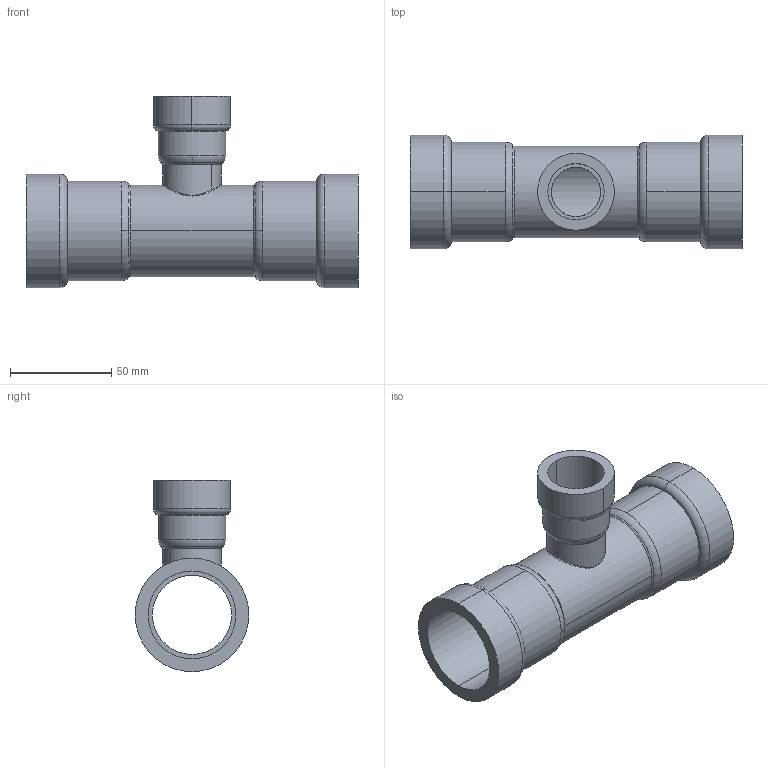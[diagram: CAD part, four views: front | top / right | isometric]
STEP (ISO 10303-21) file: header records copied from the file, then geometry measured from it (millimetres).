
FILE_DESCRIPTION(('Creo Elements/Direct Modeling STEP Export'),'2;1');
FILE_NAME('C9415_1-1-4_3-4_1-1-4.stp','2020-07-15T 9:07:14',(''),(''),'PTC Creo Elements/Direct Modeling STEP processor for AP214 (Solid Model)','PTC Creo Elements/Direct Modeling 19.0C 15-Aug-2015 (C) Parametric Technology GmbH','');
FILE_SCHEMA(('AUTOMOTIVE_DESIGN { 1 0 10303 214 1 1 1 1 }'));
Length unit declared in the file: millimetre
Products named in the file (2): 9415_1-1-4_3-4_1-1-4
Assembly tree (1 placements, depth 2):
  9415_1-1-4_3-4_1-1-4
    9415_1-1-4_3-4_1-1-4
Bounding box: 163.66 x 56 x 94.35 mm (x, y, z)
Volume: 103659.4 mm3; surface area: 58496.8 mm2
Topology: 1 solids, 1 shells, 60 faces, 146 edges, 92 vertices
Faces by surface type: cylinder 26, torus 12, cone 12, plane 6, bspline 4
Entity records: 5501 total; most frequent: CARTESIAN_POINT 4214, ORIENTED_EDGE 292, DIRECTION 238, EDGE_CURVE 146, AXIS2_PLACEMENT_3D 100, VERTEX_POINT 92, EDGE_LOOP 68, FACE_OUTER_BOUND 60
